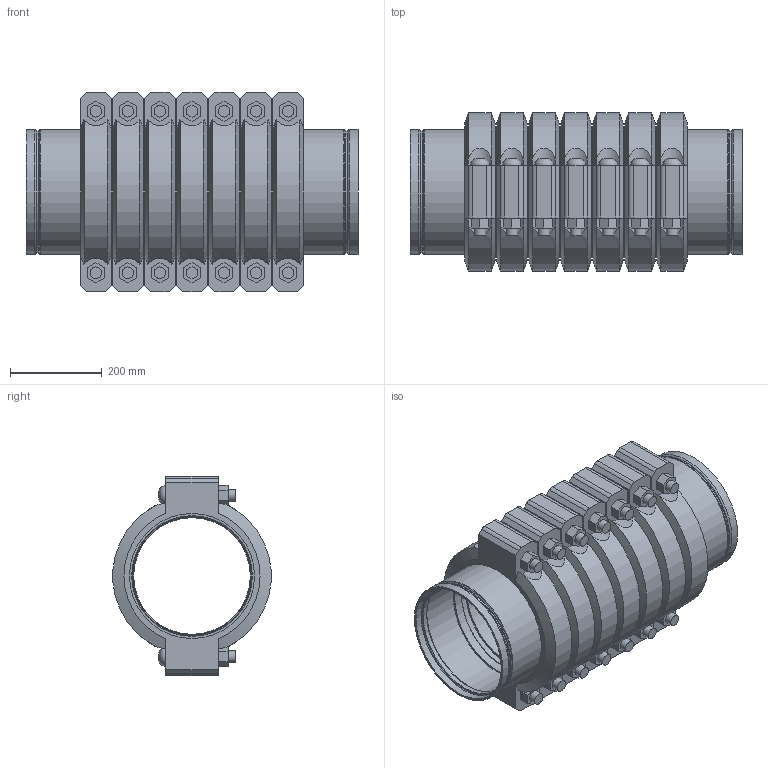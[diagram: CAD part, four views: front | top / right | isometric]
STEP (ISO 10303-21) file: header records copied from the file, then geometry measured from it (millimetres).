
FILE_DESCRIPTION(/* description */ ('VIC STRENGTHIN 100 EXPANSION JOINT 7 COUPLINGS COMPRESSED STYLE E155 (ST1)','CAx-IF Rec.Pracs.---Representation and Presentation of Product Manufacturing Information (PMI)---4.0---2014-10-13'),/* implementation_level */ '2;1');
FILE_NAME(/* name */ 'C:\Users\Vjadhav\AppData\Roaming\Autodesk\ApplicationPlugins\Victaulic.Temp\A926\Victaulic_SS-StrengThin 100_Expansion Joint_Compressed_7 Couplings_Style E155 (ST1)_10 (250).stp',/* time_stamp */ '2021-07-23T12:35:21+05:00',/* author */ ('kkamble'),/* organization */ ('Victaulic'),/* preprocessor_version */ 'ST-DEVELOPER v17.2',/* originating_system */ 'Autodesk Inventor 2019',/* authorisation */ '');
FILE_SCHEMA (('AP242_MANAGED_MODEL_BASED_3D_ENGINEERING_MIM_LF { 1 0 10303 442 1 1 4 }'));
Length unit declared in the file: inch
Products named in the file (4): E155-10.0; E494G-10.0; Nipple-10.0; 077-10.0
Assembly tree (15 placements, depth 2):
  E155-10.0
    E494G-10.0  x2
    Nipple-10.0  x6
    077-10.0  x7
Bounding box: 724.66 x 344.9 x 435.1 mm (x, y, z)
Volume: 24684434.8 mm3; surface area: 3295611.6 mm2
Topology: 15 solids, 29 shells, 541 faces, 1383 edges, 976 vertices
Faces by surface type: plane 288, cylinder 175, torus 32, cone 32, bspline 14
Full cylindrical faces by diameter (mm): 25.4 x28, 27.432 x14, 254.508 x6, 255.626 x2, 258.724 x2, 263.5 x6, 265.176 x2, 268.275 x14, 273.05 x31
Entity records: 4002 total; most frequent: CARTESIAN_POINT 836, DIRECTION 677, ORIENTED_EDGE 568, AXIS2_PLACEMENT_3D 292, EDGE_CURVE 284, VERTEX_POINT 205, CIRCLE 171, EDGE_LOOP 129
